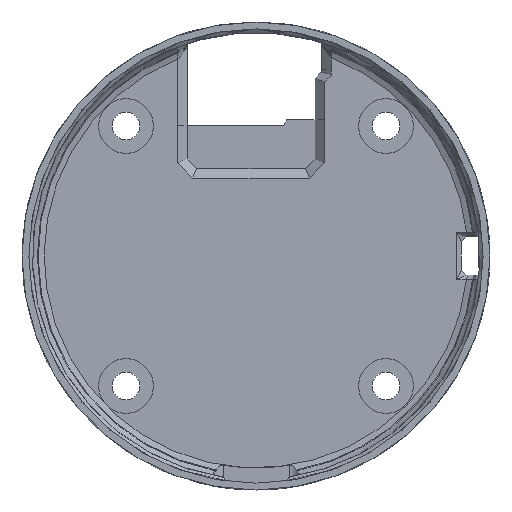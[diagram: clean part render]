
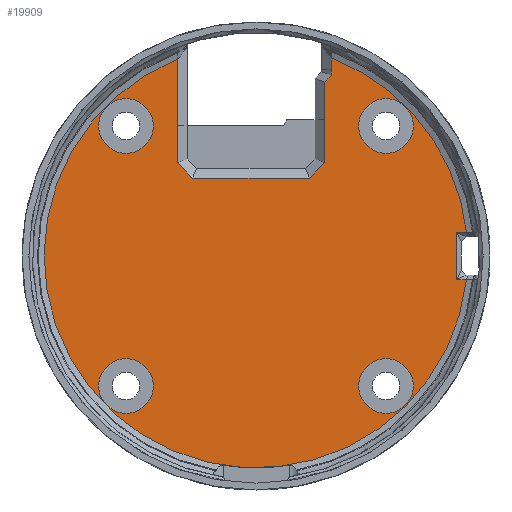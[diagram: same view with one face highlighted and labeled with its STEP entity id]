
A CAD part, left-side view. The second image highlights one B-rep face of the part: STEP entity #19909.
In plain terms, the highlighted planar face has unit normal (-1, 0, 0).
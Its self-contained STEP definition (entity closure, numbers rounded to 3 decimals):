
#26=FACE_BOUND('',#3898,.T.);
#27=FACE_BOUND('',#3899,.T.);
#28=FACE_BOUND('',#3900,.T.);
#29=FACE_BOUND('',#3901,.T.);
#168=LINE('',#24383,#1375);
#171=LINE('',#24392,#1378);
#173=LINE('',#24440,#1380);
#185=LINE('',#24732,#1392);
#186=LINE('',#24734,#1393);
#187=LINE('',#24736,#1394);
#188=LINE('',#24738,#1395);
#189=LINE('',#24740,#1396);
#190=LINE('',#24742,#1397);
#191=LINE('',#24744,#1398);
#192=LINE('',#24746,#1399);
#193=LINE('',#24748,#1400);
#194=LINE('',#24750,#1401);
#1375=VECTOR('',#21435,10.);
#1378=VECTOR('',#21442,10.);
#1380=VECTOR('',#21446,10.);
#1392=VECTOR('',#21494,10.);
#1393=VECTOR('',#21495,10.);
#1394=VECTOR('',#21496,10.);
#1395=VECTOR('',#21497,10.);
#1396=VECTOR('',#21498,10.);
#1397=VECTOR('',#21499,10.);
#1398=VECTOR('',#21500,10.);
#1399=VECTOR('',#21501,10.);
#1400=VECTOR('',#21502,10.);
#1401=VECTOR('',#21503,10.);
#2565=PLANE('',#21067);
#2759=FACE_OUTER_BOUND('',#3897,.T.);
#3897=EDGE_LOOP('',(#12708,#12709,#12710,#12711,#12712,#12713,#12714,#12715,
#12716,#12717,#12718,#12719,#12720,#12721,#12722));
#3898=EDGE_LOOP('',(#12723));
#3899=EDGE_LOOP('',(#12724));
#3900=EDGE_LOOP('',(#12725));
#3901=EDGE_LOOP('',(#12726));
#5055=CIRCLE('',#21068,22.184);
#5056=CIRCLE('',#21069,22.184);
#5057=CIRCLE('',#21070,2.864);
#5058=CIRCLE('',#21071,2.864);
#5059=CIRCLE('',#21072,2.864);
#5060=CIRCLE('',#21073,2.864);
#7131=VERTEX_POINT('',#24324);
#7137=VERTEX_POINT('',#24382);
#7138=VERTEX_POINT('',#24388);
#7142=VERTEX_POINT('',#24439);
#7165=VERTEX_POINT('',#24729);
#7166=VERTEX_POINT('',#24731);
#7167=VERTEX_POINT('',#24733);
#7168=VERTEX_POINT('',#24735);
#7169=VERTEX_POINT('',#24737);
#7170=VERTEX_POINT('',#24739);
#7171=VERTEX_POINT('',#24741);
#7172=VERTEX_POINT('',#24743);
#7173=VERTEX_POINT('',#24745);
#7174=VERTEX_POINT('',#24747);
#7175=VERTEX_POINT('',#24749);
#7176=VERTEX_POINT('',#24752);
#7177=VERTEX_POINT('',#24754);
#7178=VERTEX_POINT('',#24756);
#7179=VERTEX_POINT('',#24758);
#9309=EDGE_CURVE('',#7131,#7137,#168,.T.);
#9313=EDGE_CURVE('',#7138,#7131,#171,.T.);
#9318=EDGE_CURVE('',#7142,#7138,#173,.T.);
#9359=EDGE_CURVE('',#7165,#7142,#5055,.T.);
#9360=EDGE_CURVE('',#7166,#7165,#185,.T.);
#9361=EDGE_CURVE('',#7167,#7166,#186,.T.);
#9362=EDGE_CURVE('',#7168,#7167,#187,.T.);
#9363=EDGE_CURVE('',#7169,#7168,#188,.T.);
#9364=EDGE_CURVE('',#7170,#7169,#189,.T.);
#9365=EDGE_CURVE('',#7171,#7170,#190,.T.);
#9366=EDGE_CURVE('',#7172,#7171,#191,.T.);
#9367=EDGE_CURVE('',#7173,#7172,#192,.T.);
#9368=EDGE_CURVE('',#7174,#7173,#193,.T.);
#9369=EDGE_CURVE('',#7175,#7174,#194,.T.);
#9370=EDGE_CURVE('',#7137,#7175,#5056,.T.);
#9371=EDGE_CURVE('',#7176,#7176,#5057,.T.);
#9372=EDGE_CURVE('',#7177,#7177,#5058,.T.);
#9373=EDGE_CURVE('',#7178,#7178,#5059,.T.);
#9374=EDGE_CURVE('',#7179,#7179,#5060,.T.);
#12708=ORIENTED_EDGE('',*,*,#9318,.F.);
#12709=ORIENTED_EDGE('',*,*,#9359,.F.);
#12710=ORIENTED_EDGE('',*,*,#9360,.F.);
#12711=ORIENTED_EDGE('',*,*,#9361,.F.);
#12712=ORIENTED_EDGE('',*,*,#9362,.F.);
#12713=ORIENTED_EDGE('',*,*,#9363,.F.);
#12714=ORIENTED_EDGE('',*,*,#9364,.F.);
#12715=ORIENTED_EDGE('',*,*,#9365,.F.);
#12716=ORIENTED_EDGE('',*,*,#9366,.F.);
#12717=ORIENTED_EDGE('',*,*,#9367,.F.);
#12718=ORIENTED_EDGE('',*,*,#9368,.F.);
#12719=ORIENTED_EDGE('',*,*,#9369,.F.);
#12720=ORIENTED_EDGE('',*,*,#9370,.F.);
#12721=ORIENTED_EDGE('',*,*,#9309,.F.);
#12722=ORIENTED_EDGE('',*,*,#9313,.F.);
#12723=ORIENTED_EDGE('',*,*,#9371,.T.);
#12724=ORIENTED_EDGE('',*,*,#9372,.T.);
#12725=ORIENTED_EDGE('',*,*,#9373,.T.);
#12726=ORIENTED_EDGE('',*,*,#9374,.T.);
#19909=ADVANCED_FACE('',(#2759,#26,#27,#28,#29),#2565,.F.);
#21067=AXIS2_PLACEMENT_3D('',#24728,#21490,#21491);
#21068=AXIS2_PLACEMENT_3D('',#24730,#21492,#21493);
#21069=AXIS2_PLACEMENT_3D('',#24751,#21504,#21505);
#21070=AXIS2_PLACEMENT_3D('',#24753,#21506,#21507);
#21071=AXIS2_PLACEMENT_3D('',#24755,#21508,#21509);
#21072=AXIS2_PLACEMENT_3D('',#24757,#21510,#21511);
#21073=AXIS2_PLACEMENT_3D('',#24759,#21512,#21513);
#21435=DIRECTION('',(0.,-1.,0.));
#21442=DIRECTION('',(0.,0.,-1.));
#21446=DIRECTION('',(0.,1.,0.));
#21490=DIRECTION('center_axis',(1.,0.,0.));
#21491=DIRECTION('ref_axis',(0.,1.,0.));
#21492=DIRECTION('center_axis',(1.,0.,0.));
#21493=DIRECTION('ref_axis',(0.,0.,
-1.));
#21494=DIRECTION('',(0.,0.,1.));
#21495=DIRECTION('',(0.,0.,1.));
#21496=DIRECTION('',(0.,-0.707,0.707));
#21497=DIRECTION('',(0.,0.,1.));
#21498=DIRECTION('',(0.,0.,1.));
#21499=DIRECTION('',(0.,-0.707,0.707));
#21500=DIRECTION('',(0.,-1.,0.));
#21501=DIRECTION('',(0.,-0.707,-0.707));
#21502=DIRECTION('',(0.,0.,-1.));
#21503=DIRECTION('',(0.,0.,-1.));
#21504=DIRECTION('center_axis',(1.,0.,0.));
#21505=DIRECTION('ref_axis',(0.,0.,
-1.));
#21506=DIRECTION('center_axis',(1.,0.,0.));
#21507=DIRECTION('ref_axis',(0.,1.,0.));
#21508=DIRECTION('center_axis',(1.,0.,0.));
#21509=DIRECTION('ref_axis',(0.,1.,0.));
#21510=DIRECTION('center_axis',(1.,0.,0.));
#21511=DIRECTION('ref_axis',(0.,1.,0.));
#21512=DIRECTION('center_axis',(1.,0.,0.));
#21513=DIRECTION('ref_axis',(0.,1.,0.));
#24324=CARTESIAN_POINT('',(24.87,-21.,-2.5));
#24382=CARTESIAN_POINT('',(24.87,-22.043,-2.5));
#24383=CARTESIAN_POINT('',(24.87,-10.75,-2.5));
#24388=CARTESIAN_POINT('',(24.87,-21.,2.5));
#24392=CARTESIAN_POINT('',(24.87,-21.,0.736));
#24439=CARTESIAN_POINT('',(24.87,-22.043,2.5));
#24440=CARTESIAN_POINT('',(24.87,-12.209,2.5));
#24728=CARTESIAN_POINT('Origin',(24.87,0.,
-0.528));
#24729=CARTESIAN_POINT('',(24.87,-7.878,20.738));
#24730=CARTESIAN_POINT('Origin',(24.87,0.,
0.));
#24731=CARTESIAN_POINT('',(24.87,-7.878,19.52));
#24732=CARTESIAN_POINT('',(24.87,-7.878,11.066));
#24733=CARTESIAN_POINT('',(24.87,-7.878,18.893));
#24734=CARTESIAN_POINT('',(24.87,-7.878,9.496));
#24735=CARTESIAN_POINT('',(24.87,-7.178,18.193));
#24736=CARTESIAN_POINT('',(24.87,-0.907,11.922));
#24737=CARTESIAN_POINT('',(24.87,-7.178,14.261));
#24738=CARTESIAN_POINT('',(24.87,-7.178,9.04));
#24739=CARTESIAN_POINT('',(24.87,-7.178,9.747));
#24740=CARTESIAN_POINT('',(24.87,-7.178,6.866));
#24741=CARTESIAN_POINT('',(24.87,-5.592,8.161));
#24742=CARTESIAN_POINT('',(24.87,-2.668,5.237));
#24743=CARTESIAN_POINT('',(24.87,6.636,8.161));
#24744=CARTESIAN_POINT('',(24.87,-2.589,8.161));
#24745=CARTESIAN_POINT('',(24.87,8.222,9.747));
#24746=CARTESIAN_POINT('',(24.87,2.951,4.476));
#24747=CARTESIAN_POINT('',(24.87,8.222,13.661));
#24748=CARTESIAN_POINT('',(24.87,8.222,4.816));
#24749=CARTESIAN_POINT('',(24.87,8.222,20.604));
#24750=CARTESIAN_POINT('',(24.87,8.222,6.566));
#24751=CARTESIAN_POINT('Origin',(24.87,0.,
0.));
#24752=CARTESIAN_POINT('',(24.87,-16.476,13.612));
#24753=CARTESIAN_POINT('Origin',(24.87,-13.612,13.612));
#24754=CARTESIAN_POINT('',(24.87,10.748,13.612));
#24755=CARTESIAN_POINT('Origin',(24.87,13.612,13.612));
#24756=CARTESIAN_POINT('',(24.87,10.748,-13.612));
#24757=CARTESIAN_POINT('Origin',(24.87,13.612,-13.612));
#24758=CARTESIAN_POINT('',(24.87,-16.476,-13.612));
#24759=CARTESIAN_POINT('Origin',(24.87,-13.612,-13.612));
